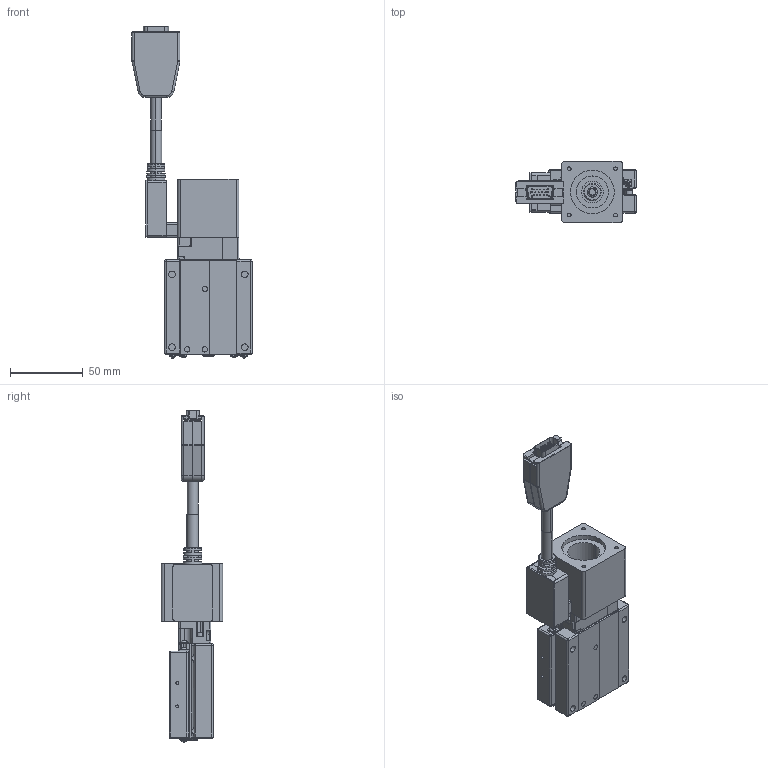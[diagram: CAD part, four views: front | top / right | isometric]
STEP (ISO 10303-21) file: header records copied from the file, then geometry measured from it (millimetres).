
FILE_DESCRIPTION (( 'STEP AP203' ), '1' );
FILE_NAME ('CXS6020(伺服無馬達PCD45).STEP', '2023-11-30T07:53:51', ( '' ), ( '' ), 'SwSTEP 2.0', 'SolidWorks 2019', '' );
FILE_SCHEMA (( 'CONFIG_CONTROL_DESIGN' ));
Products named in the file (3): Group2^CXS6020(伺服無馬達PCD45)_defeature_GMT; Group1^CXS6020(伺服無馬達PCD45)_defeature_GMT; CXS6020(伺服無馬達PCD45)
Assembly tree (2 placements, depth 2):
  CXS6020(伺服無馬達PCD45)
    Group1^CXS6020(伺服無馬達PCD45)_defeature_GMT
    Group2^CXS6020(伺服無馬達PCD45)_defeature_GMT
Bounding box: 82.5 x 42 x 228.01 mm (x, y, z)
Volume: 175859.6 mm3; surface area: 70509.2 mm2
Topology: 7 solids, 11 shells, 5076 faces, 12951 edges, 8142 vertices
Faces by surface type: plane 2717, bspline 1173, cylinder 860, cone 147, sphere 118, torus 61
Entity records: 169651 total; most frequent: CARTESIAN_POINT 56415, ORIENTED_EDGE 25702, DIRECTION 19207, EDGE_CURVE 12851, VERTEX_POINT 8142, LINE 7319, VECTOR 7319, AXIS2_PLACEMENT_3D 5944
